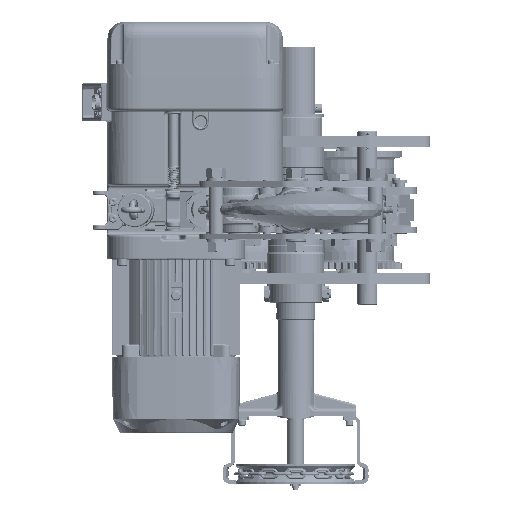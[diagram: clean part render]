
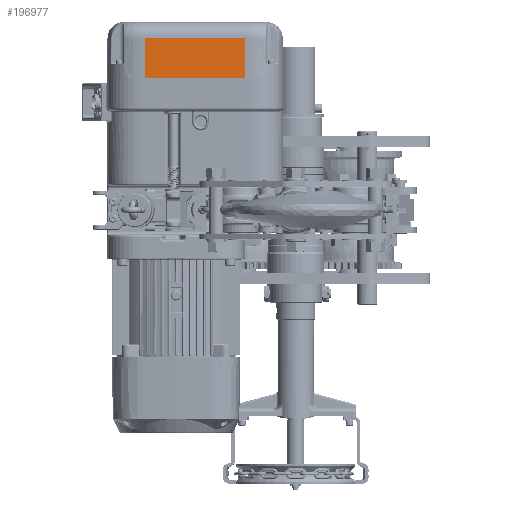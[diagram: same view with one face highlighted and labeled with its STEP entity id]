
A CAD part, front view. The second image highlights one B-rep face of the part: STEP entity #196977.
In plain terms, the highlighted planar face has unit normal (0, -1, 0.018).
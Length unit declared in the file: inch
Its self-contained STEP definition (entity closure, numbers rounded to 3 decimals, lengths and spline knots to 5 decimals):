
#1454 = CARTESIAN_POINT ( 'NONE',  ( -3.53868, -5.21654, 0. ) ) ;
#3688 = EDGE_LOOP ( 'NONE', ( #102999, #18453, #77773, #265073 ) ) ;
#18453 = ORIENTED_EDGE ( 'NONE', *, *, #67653, .T. ) ;
#27298 = LINE ( 'NONE', #225404, #177713 ) ;
#32461 = LINE ( 'NONE', #100694, #128299 ) ;
#41090 = VERTEX_POINT ( 'NONE', #250922 ) ;
#47977 = CARTESIAN_POINT ( 'NONE',  ( 3.53868, -5.21654, 0. ) ) ;
#48261 = CARTESIAN_POINT ( 'NONE',  ( -3.53868, -5.1674, 2.8152 ) ) ;
#54202 = DIRECTION ( 'NONE',  ( -1., 0., 0. ) ) ;
#59594 = VERTEX_POINT ( 'NONE', #47977 ) ;
#62104 = LINE ( 'NONE', #81224, #277752 ) ;
#63584 = DIRECTION ( 'NONE',  ( 0., -0.017, -1. ) ) ;
#65175 = DIRECTION ( 'NONE',  ( 0., -1., 0.017 ) ) ;
#67653 = EDGE_CURVE ( 'NONE', #41090, #172166, #27298, .T. ) ;
#77773 = ORIENTED_EDGE ( 'NONE', *, *, #200725, .T. ) ;
#81224 = CARTESIAN_POINT ( 'NONE',  ( -3.53868, -5.21654, 0. ) ) ;
#100694 = CARTESIAN_POINT ( 'NONE',  ( 3.53868, -5.21654, 0. ) ) ;
#102999 = ORIENTED_EDGE ( 'NONE', *, *, #213654, .F. ) ;
#114224 = CARTESIAN_POINT ( 'NONE',  ( 0., -5.21654, 0. ) ) ;
#123500 = VECTOR ( 'NONE', #281336, 39.37008 ) ;
#128299 = VECTOR ( 'NONE', #202183, 39.37008 ) ;
#138579 = CARTESIAN_POINT ( 'NONE',  ( 0., -5.21654, 0. ) ) ;
#172166 = VERTEX_POINT ( 'NONE', #48261 ) ;
#177713 = VECTOR ( 'NONE', #54202, 39.37008 ) ;
#184657 = LINE ( 'NONE', #138579, #123500 ) ;
#196977 = ADVANCED_FACE ( 'NONE', ( #207989 ), #303112, .T. ) ;
#200725 = EDGE_CURVE ( 'NONE', #172166, #308942, #62104, .T. ) ;
#202183 = DIRECTION ( 'NONE',  ( 0., -0.017, -1. ) ) ;
#205118 = AXIS2_PLACEMENT_3D ( 'NONE', #114224, #65175, #63584 ) ;
#207989 = FACE_OUTER_BOUND ( 'NONE', #3688, .T. ) ;
#213654 = EDGE_CURVE ( 'NONE', #41090, #59594, #32461, .T. ) ;
#225404 = CARTESIAN_POINT ( 'NONE',  ( 0., -5.1674, 2.8152 ) ) ;
#250922 = CARTESIAN_POINT ( 'NONE',  ( 3.53868, -5.1674, 2.8152 ) ) ;
#258605 = EDGE_CURVE ( 'NONE', #59594, #308942, #184657, .T. ) ;
#265073 = ORIENTED_EDGE ( 'NONE', *, *, #258605, .F. ) ;
#277752 = VECTOR ( 'NONE', #300044, 39.37008 ) ;
#281336 = DIRECTION ( 'NONE',  ( -1., 0., 0. ) ) ;
#300044 = DIRECTION ( 'NONE',  ( 0., -0.017, -1. ) ) ;
#303112 = PLANE ( 'NONE',  #205118 ) ;
#308942 = VERTEX_POINT ( 'NONE', #1454 ) ;
